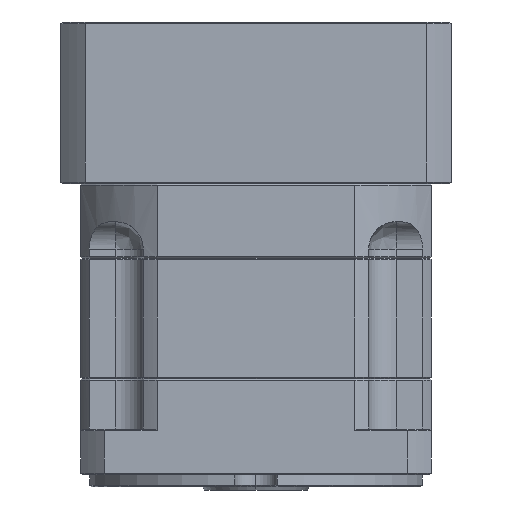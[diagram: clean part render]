
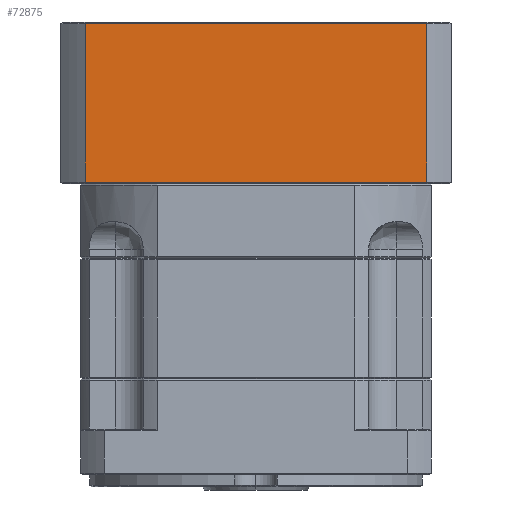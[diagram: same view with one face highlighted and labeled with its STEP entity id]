
A CAD part, left-side view. The second image highlights one B-rep face of the part: STEP entity #72875.
In plain terms, the highlighted planar face has unit normal (-1, 0, 0).
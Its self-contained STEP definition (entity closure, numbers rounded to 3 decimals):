
#4018 = DIRECTION ( 'NONE',  ( 1., 0., 0. ) ) ;
#6967 = CARTESIAN_POINT ( 'NONE',  ( -19.611, 103.801, -3.393 ) ) ;
#17475 = EDGE_CURVE ( 'NONE', #41918, #75750, #57472, .T. ) ;
#18901 = LINE ( 'NONE', #78174, #70278 ) ;
#23774 = VECTOR ( 'NONE', #59804, 1000. ) ;
#25268 = LINE ( 'NONE', #78176, #57428 ) ;
#29073 = EDGE_CURVE ( 'NONE', #41918, #30778, #30415, .T. ) ;
#30415 = LINE ( 'NONE', #32594, #125220 ) ;
#30778 = VERTEX_POINT ( 'NONE', #78775 ) ;
#32594 = CARTESIAN_POINT ( 'NONE',  ( -19.611, -16.136, -55.893 ) ) ;
#34462 = CARTESIAN_POINT ( 'NONE',  ( -19.611, -16.136, -3.393 ) ) ;
#41918 = VERTEX_POINT ( 'NONE', #114760 ) ;
#48186 = EDGE_LOOP ( 'NONE', ( #93242, #128021, #132173, #80450 ) ) ;
#55475 = DIRECTION ( 'NONE',  ( 0., 1., 0. ) ) ;
#57428 = VECTOR ( 'NONE', #131474, 1000. ) ;
#57472 = LINE ( 'NONE', #6967, #23774 ) ;
#59804 = DIRECTION ( 'NONE',  ( 0., 0., 1. ) ) ;
#70278 = VECTOR ( 'NONE', #80457, 1000. ) ;
#72875 = ADVANCED_FACE ( 'NONE', ( #97086 ), #116952, .F. ) ;
#75750 = VERTEX_POINT ( 'NONE', #123665 ) ;
#78174 = CARTESIAN_POINT ( 'NONE',  ( -19.611, -16.136, -3.893 ) ) ;
#78176 = CARTESIAN_POINT ( 'NONE',  ( -19.611, -8.074, -299.214 ) ) ;
#78775 = CARTESIAN_POINT ( 'NONE',  ( -19.611, -8.074, -55.893 ) ) ;
#80087 = VERTEX_POINT ( 'NONE', #110881 ) ;
#80450 = ORIENTED_EDGE ( 'NONE', *, *, #17475, .F. ) ;
#80457 = DIRECTION ( 'NONE',  ( 0., -1., 0. ) ) ;
#81981 = EDGE_CURVE ( 'NONE', #75750, #80087, #18901, .T. ) ;
#92125 = EDGE_CURVE ( 'NONE', #80087, #30778, #25268, .T. ) ;
#93242 = ORIENTED_EDGE ( 'NONE', *, *, #29073, .T. ) ;
#93644 = AXIS2_PLACEMENT_3D ( 'NONE', #34462, #4018, #55475 ) ;
#94536 = DIRECTION ( 'NONE',  ( 0., -1., 0. ) ) ;
#97086 = FACE_OUTER_BOUND ( 'NONE', #48186, .T. ) ;
#110881 = CARTESIAN_POINT ( 'NONE',  ( -19.611, -8.074, -3.893 ) ) ;
#114760 = CARTESIAN_POINT ( 'NONE',  ( -19.611, 103.801, -55.893 ) ) ;
#116952 = PLANE ( 'NONE',  #93644 ) ;
#123665 = CARTESIAN_POINT ( 'NONE',  ( -19.611, 103.801, -3.893 ) ) ;
#125220 = VECTOR ( 'NONE', #94536, 1000. ) ;
#128021 = ORIENTED_EDGE ( 'NONE', *, *, #92125, .F. ) ;
#131474 = DIRECTION ( 'NONE',  ( 0., 0., -1. ) ) ;
#132173 = ORIENTED_EDGE ( 'NONE', *, *, #81981, .F. ) ;
